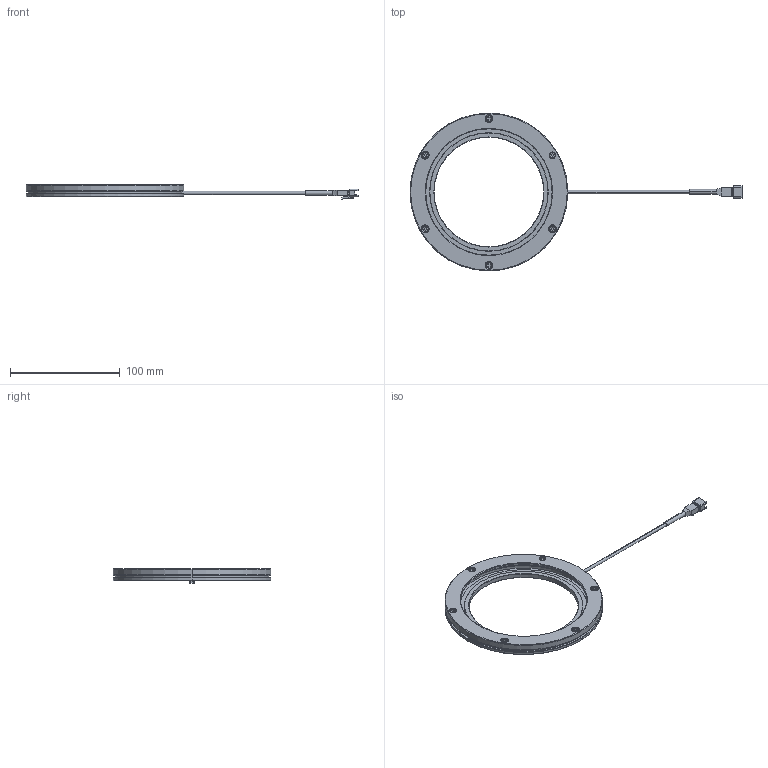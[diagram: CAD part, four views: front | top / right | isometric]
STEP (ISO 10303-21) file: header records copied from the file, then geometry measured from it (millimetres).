
FILE_DESCRIPTION(('STEP AP214'),'1');
FILE_NAME('VHR-144100_DRAWING_3D.step','2023-10-03T02:08:19',(' '),(' '),'Spatial InterOp 3D',' ',' ');
FILE_SCHEMA(('AUTOMOTIVE_DESIGN { 1 0 10303 214 1 1 1 1 }'));
Length unit declared in the file: millimetre
Products named in the file (5): SIDE LIGHT BASE LEVEL2; LENS COVER LEVEL2; ______ __________ M3 x 5; SM 2.5 CABLE 2P
Assembly tree (9 placements, depth 2):
  (unnamed)
    SIDE LIGHT BASE LEVEL2
    LENS COVER LEVEL2
    ______ __________ M3 x 5  x6
    SM 2.5 CABLE 2P
Bounding box: 303 x 144 x 13.25 mm (x, y, z)
Volume: 61314.4 mm3; surface area: 43588.2 mm2
Topology: 10 solids, 10 shells, 486 faces, 1118 edges, 701 vertices
Faces by surface type: plane 260, cylinder 153, cone 40, torus 28, bspline 5
Entity records: 13671 total; most frequent: CARTESIAN_POINT 2309, DIRECTION 1790, ORIENTED_EDGE 1696, EDGE_CURVE 848, AXIS2_PLACEMENT_3D 629, VERTEX_POINT 541, LINE 532, VECTOR 532
